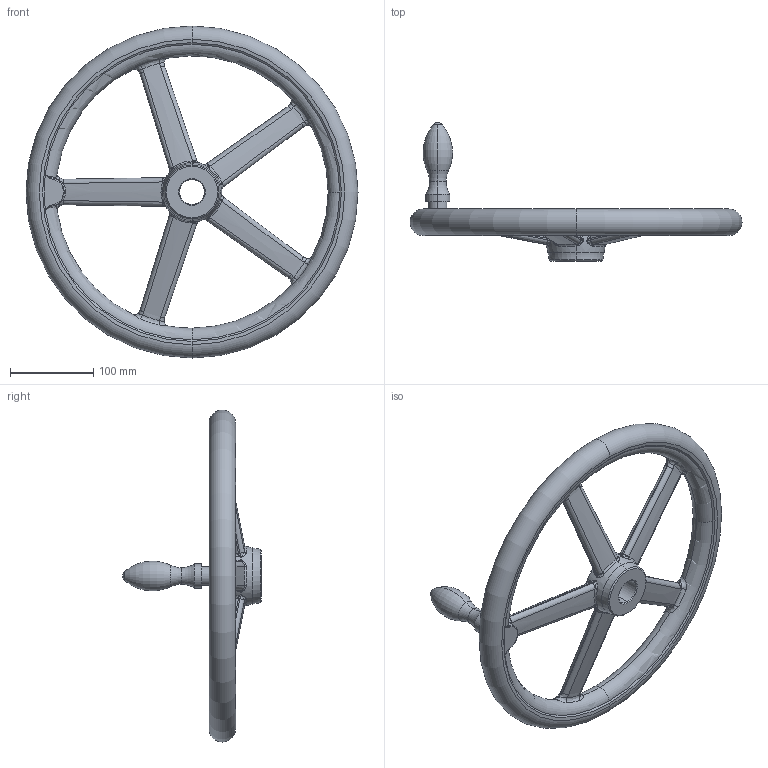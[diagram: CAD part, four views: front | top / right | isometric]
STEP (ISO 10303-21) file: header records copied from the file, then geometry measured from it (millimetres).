
FILE_DESCRIPTION (( 'STEP AP203' ), '1' );
FILE_NAME ('din950_d4_400x30.step', '2010-03-23T10:19:48', ( '_' ), ( '_' ), 'SwSTEP 2.0', 'SolidWorks 2010', '' );
FILE_SCHEMA (( 'CONFIG_CONTROL_DESIGN' ));
Length unit declared in the file: millimetre
Products named in the file (1): din950_d4_400x30
Bounding box: 400 x 167 x 400 mm (x, y, z)
Volume: 1458274.4 mm3; surface area: 198271.7 mm2
Topology: 1 solids, 1 shells, 261 faces, 641 edges, 333 vertices
Faces by surface type: bspline 196, torus 24, cone 16, plane 15, cylinder 8, sphere 2
Entity records: 59562 total; most frequent: CARTESIAN_POINT 54827, ORIENTED_EDGE 1194, EDGE_CURVE 597, DIRECTION 576, B_SPLINE_CURVE_WITH_KNOTS 364, VERTEX_POINT 333, AXIS2_PLACEMENT_3D 277, EDGE_LOOP 268
